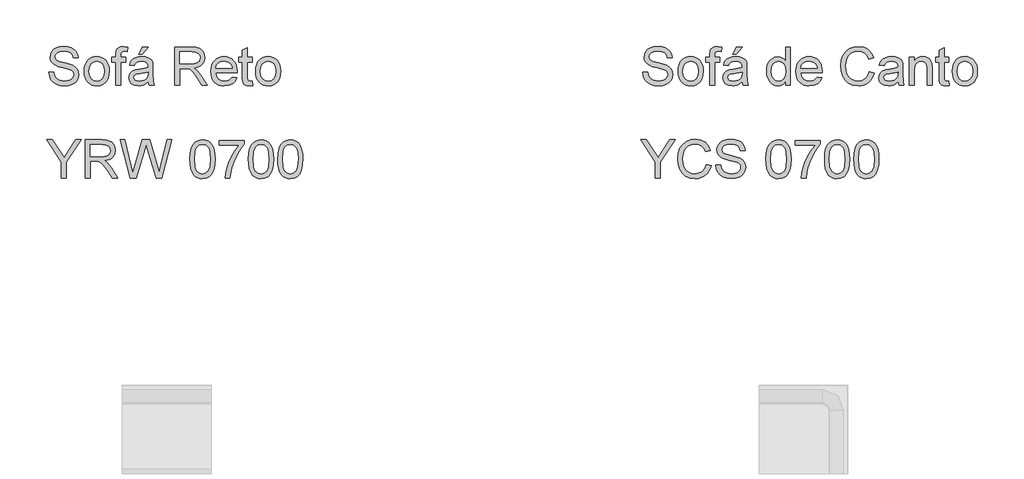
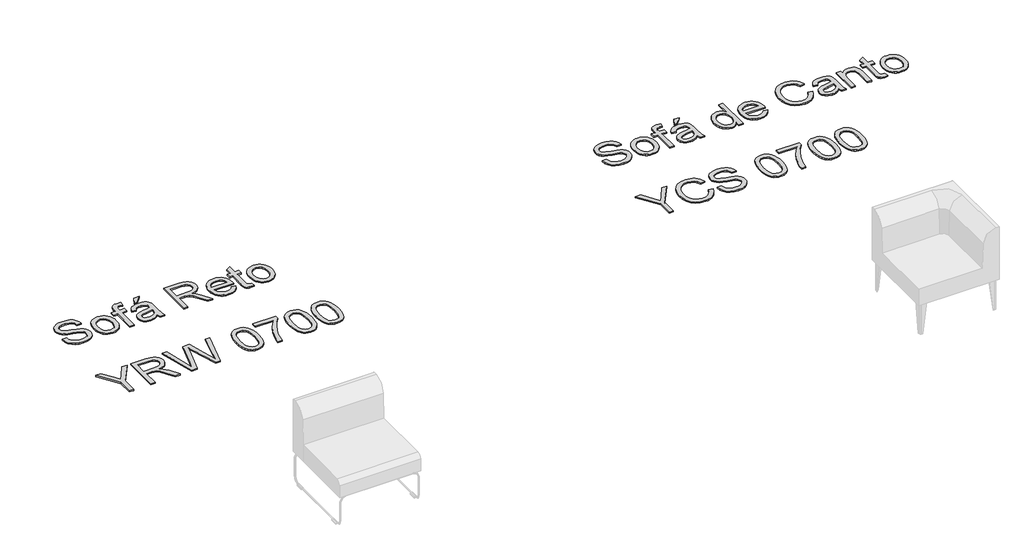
# One storey, part 16 of 26: 2 proxies.
"""IFC4 building model written with IfcOpenShell, lengths in millimetres."""

from ifc_helpers import new_model, si_unit, origin, origin_with_axes, place, context, project, spatial, polyline, outline, extrude, element, save

model = new_model("IFC4")

# Units and contexts
model_context = context("Model", 3, world=origin())
ifc_project = project(units=[si_unit("LENGTHUNIT", "METRE", prefix="MILLI")], contexts=[model_context])

# Site, building, storey
site = spatial("IfcSite", under=ifc_project)
building = spatial("IfcBuilding", under=site)
storey = spatial("IfcBuildingStorey", under=building, Name="Marelli - Linha YOUNG - Planta Baixa", Elevation=0.0)

# Proxies
placement = place(None, origin())
element("IfcBuildingElementProxy", 1, Name="300mm Arial", ObjectType="300mm Arial", at=placement, inside=storey, context=model_context, shape_type="SweptSolid", body=[
    extrude(outline(polyline([(9903.6286325, 188.9537033), (9941.2997488, 188.9537033), (9945.6223622, 168.0488089), (9953.4398546, 151.2457988), (9965.6351428, 137.9100765), (9983.0911434, 127.4070455), (10004.4282992, 120.5920316), (10028.2670525, 118.3203602), (10049.2547203, 120.0402086), (10067.6304259, 125.1997535), (10082.5204497, 133.3667338), (10093.0510718, 144.1088881), (10099.3142628, 156.442132), (10101.4019931, 169.3823812), (10099.8384946, 181.9915366), (10095.1479992, 192.8900407), (10085.6198555, 202.1882581), (10069.5434123, 209.9965534), (10014.6922068, 224.3807394), (9978.6857566, 233.8996861), (9955.6471466, 242.9587802), (9936.8943619, 255.6323149), (9923.6046248, 270.9913882), (9915.6859649, 288.7049063), (9913.0464116, 308.4417753), (9916.3113643, 330.505498), (9926.1062224, 351.0792986), (9942.1734685, 368.5169052), (9964.2555853, 381.1720458), (9990.761483, 388.8699765), (10020.1000722, 391.4359535), (10051.8850765, 388.7504149), (10079.6969554, 380.6937992), (10102.5424273, 367.4316533), (10119.4282109, 349.129524), (10130.1151828, 326.9278456), (10134.3642199, 301.9670522), (10096.6931036, 301.9670522), (10089.776922, 324.4446421), (10075.3559478, 340.6682381), (10052.8231756, 350.4906874), (10021.5716001, 353.7648371), (9989.5842607, 350.5274756), (9967.6400996, 340.8153909), (9954.9481708, 326.5231754), (9950.7175279, 309.5454213), (9953.7157661, 295.0692648), (9962.7104809, 283.4257997), (9983.9740602, 273.0147392), (10024.2203505, 262.3829495), (10065.7542278, 252.2845888), (10090.880568, 243.473815), (10112.3556795, 229.8069989), (10127.3376738, 212.9396094), (10136.1392505, 193.0555876), (10139.0731094, 170.3388744), (10135.6977921, 147.1163234), (10125.5718402, 125.2733299), (10109.1091209, 106.47456), (10086.7235015, 92.3846796), (10059.8037365, 83.5831028), (10029.7385804, 80.6492439), (9992.8308193, 83.8130291), (9962.4529635, 93.3043846), (9938.2555253, 109.1600986), (9919.8890167, 131.4169593), (9908.0983987, 158.5298623), (9903.6286325, 188.9537033)])), origin_with_axes(), (0.0, 0.0, 1.0), 10.0),
    extrude(outline(polyline([(10181.4531152, 196.0170376), (10183.4902618, 224.6796436), (10189.6017014, 249.378321), (10199.7874342, 270.11307), (10214.04746, 286.8838904), (10228.4040549, 297.6030521), (10244.2505718, 305.2595961), (10261.5870108, 309.8535225), (10280.4133719, 311.3848313), (10301.1964054, 309.5201294), (10319.9882776, 303.9260239), (10336.7889884, 294.6025145), (10351.598538, 281.5496015), (10363.6857608, 265.2087431), (10372.3194914, 246.0213978), (10377.4997297, 223.9875656), (10379.2264758, 199.1072464), (10376.1730553, 161.049854), (10367.0127936, 132.0791469), (10352.0124053, 110.3833062), (10331.4386047, 94.1505132), (10307.0020431, 84.0245612), (10280.4133719, 80.6492439), (10259.3268358, 82.507048), (10240.3602197, 88.0804602), (10223.5135236, 97.3694806), (10208.7867475, 110.3741091), (10196.8282834, 126.8736166), (10188.2865233, 146.6472739), (10183.1614673, 169.6950809), (10181.4531152, 196.0170376)]), holes=[polyline([(10219.1242315, 196.090614), (10223.4836332, 161.9971501), (10236.5618381, 137.7077414), (10256.2435249, 123.1672055), (10280.4133719, 118.3203602), (10304.4728544, 123.1947967), (10324.117753, 137.818106), (10337.1959579, 162.4294115), (10341.5553595, 197.2678364), (10337.1683668, 230.3680189), (10324.0073884, 254.3263339), (10304.3348987, 268.8668697), (10280.4133719, 273.713715), (10256.2435249, 268.8852638), (10236.5618381, 254.3999103), (10223.4836332, 230.1656838), (10219.1242315, 196.090614)])]), origin_with_axes(), (0.0, 0.0, 1.0), 10.0),
    extrude(outline(polyline([(10431.0242608, 85.3581335), (10431.0242608, 269.0048255), (10398.062034, 269.0048255), (10398.062034, 306.6759418), (10431.0242608, 306.6759418), (10431.0242608, 328.9695907), (10434.9973863, 360.3867131), (10442.5757554, 372.913095), (10454.2744029, 382.8275148), (10470.6451517, 389.2838438), (10492.2398248, 391.4359535), (10526.6000031, 387.3156751), (10521.0817732, 351.9990036), (10499.3767355, 353.7648371), (10485.0569288, 352.2013387), (10475.6483468, 347.5108432), (10470.4336195, 338.5529166), (10468.6953771, 324.1871247), (10468.6953771, 306.6759418), (10511.0753829, 306.6759418), (10511.0753829, 269.0048255), (10468.6953771, 269.0048255), (10468.6953771, 85.3581335), (10431.0242608, 85.3581335)])), origin_with_axes(), (0.0, 0.0, 1.0), 10.0),
    extrude(outline(polyline([(10685.3042958, 113.6114707), (10667.3056692, 98.178821), (10648.7736137, 88.0804602), (10629.285065, 82.507048), (10608.4169588, 80.6492439), (10576.9354571, 85.1190102), (10553.7129062, 98.5283089), (10539.3930995, 118.8905773), (10534.6198306, 144.2192527), (10536.4224524, 159.8358434), (10541.8303177, 174.0176943), (10550.172042, 186.1578001), (10560.7762405, 195.6491556), (10587.1533795, 208.0099907), (10619.7477243, 213.6753734), (10658.2649692, 219.6350617), (10685.0835666, 226.6248196), (10685.3042958, 235.0125291), (10682.7107278, 251.8247363), (10674.9300236, 262.8244079), (10657.5292052, 270.9913882), (10633.2857817, 273.713715), (10610.84498, 271.9018962), (10595.173207, 266.4664397), (10584.4862351, 256.4140642), (10576.9998365, 240.7514882), (10539.3287202, 245.4603778), (10545.8678226, 266.0617695), (10555.6258925, 282.2485773), (10569.5134379, 294.6278064), (10588.4409665, 303.8064622), (10611.5899411, 309.490239), (10638.1418241, 311.3848313), (10663.6084552, 309.7109682), (10683.7959797, 304.689379), (10699.0170972, 297.138601), (10709.5845075, 287.8771718), (10716.5926595, 276.4268447), (10721.1360022, 262.3093731), (10722.9754121, 229.3471464), (10722.9754121, 182.4789802), (10724.8883985, 117.0327733), (10732.3931912, 85.3581335), (10694.7220749, 85.3581335), (10685.3042958, 113.6114707)]), holes=[polyline([(10685.3042958, 188.9537033), (10624.5301902, 177.4022087), (10592.1197865, 171.2953675), (10577.4412949, 161.3625537), (10572.2909469, 146.8680031), (10575.0960471, 135.6659963), (10583.5113478, 126.4873405), (10597.3529078, 120.3621053), (10616.4367863, 118.3203602), (10636.6702961, 120.5736375), (10654.549361, 127.3334691), (10669.0439117, 137.2938741), (10679.1238783, 149.1488714), (10683.5936446, 161.3625537), (10685.0835666, 178.2851254), (10685.3042958, 188.9537033)])]), origin_with_axes(), (0.0, 0.0, 1.0), 10.0),
    extrude(outline(polyline([(10609.9620632, 330.2203895), (10638.2154005, 386.7270639), (10685.3042958, 386.7270639), (10638.2154005, 330.2203895), (10609.9620632, 330.2203895)])), origin_with_axes(), (0.0, 0.0, 1.0), 10.0),
    extrude(outline(polyline([(10897.2043251, 85.3581335), (10897.2043251, 386.7270639), (11027.0666694, 386.7270639), (11061.9694736, 384.6945159), (11087.3625284, 378.5968718), (11105.922175, 367.3396828), (11120.3247551, 349.8284998), (11129.5677903, 328.114265), (11132.648802, 304.2479206), (11127.5444393, 274.5598436), (11112.2313512, 249.9485381), (11100.6315721, 239.9191552), (11086.2496853, 231.9039262), (11049.1395891, 221.9159301), (11070.5503212, 205.8026987), (11101.0845268, 167.0279364), (11151.3372073, 85.3581335), (11107.5592499, 85.3581335), (11068.3430292, 147.8244962), (11040.0161156, 189.1744325), (11020.1136996, 208.7089665), (11002.1978465, 215.8826654), (10980.345656, 217.2070405), (10934.8754414, 217.2070405), (10934.8754414, 85.3581335), (10897.2043251, 85.3581335)]), holes=[polyline([(10934.8754414, 254.8781568), (11019.1939947, 254.8781568), (11043.409827, 256.2117291), (11062.1993999, 260.2124458), (11076.3444626, 267.1470214), (11086.6267644, 277.2821704), (11092.8899553, 289.5418378), (11094.9776857, 302.849969), (11090.9953631, 321.2256747), (11079.0483953, 336.032925), (11058.4929888, 345.800192), (11028.6853501, 349.0559476), (10934.8754414, 349.0559476), (10934.8754414, 254.8781568)])]), origin_with_axes(), (0.0, 0.0, 1.0), 10.0),
    extrude(outline(polyline([(11348.8162623, 151.282587), (11385.7516147, 146.5736975), (11372.4434835, 118.7434245), (11351.2074953, 97.9396977), (11322.5218967, 84.9718574), (11286.8649344, 80.6492439), (11263.4906321, 82.5139458), (11242.6639126, 88.1080514), (11224.384776, 97.4315607), (11208.6532222, 110.4844737), (11196.0026801, 126.903507), (11186.9665786, 146.3253771), (11181.5449177, 168.750084), (11179.7376974, 194.1776276), (11181.5633118, 220.4673947), (11187.040155, 243.6393619), (11196.168227, 263.6935292), (11208.9475278, 280.6298965), (11224.6376949, 294.0851805), (11242.4983657, 303.6960976), (11262.5295404, 309.4626479), (11284.7312188, 311.3848313), (11306.2178266, 309.4672464), (11325.6488937, 303.7144917), (11343.0244202, 294.1265672), (11358.344406, 280.7034729), (11370.8500946, 263.8038938), (11379.7827293, 243.7865147), (11385.1423101, 220.6513357), (11386.928837, 194.3983568), (11386.7081078, 184.2448138), (11217.4088137, 184.2448138), (11223.929522, 156.0466588), (11239.0770632, 135.3165084), (11260.9384507, 122.5693973), (11287.6006983, 118.3203602), (11307.6502671, 120.2885289), (11324.5360507, 126.1930349), (11338.2580491, 136.4017603), (11348.8162623, 151.282587)]), holes=[polyline([(11217.4088137, 221.9159301), (11349.2577207, 221.9159301), (11344.1625551, 241.818346), (11334.1745589, 256.0553792), (11312.2120038, 269.2991311), (11284.584066, 273.713715), (11259.1910113, 270.1912449), (11238.1941464, 259.6238346), (11223.5984282, 243.1519182), (11217.4088137, 221.9159301)])]), origin_with_axes(), (0.0, 0.0, 1.0), 10.0),
    extrude(outline(polyline([(11504.6510755, 116.7752559), (11509.359965, 84.2544875), (11481.1802042, 80.6492439), (11463.0988041, 82.2127424), (11449.615929, 86.9032378), (11440.0877853, 94.1321191), (11433.8705796, 103.3107748), (11430.4492771, 119.0745183), (11429.3088429, 146.0586627), (11429.3088429, 269.0048255), (11401.0555057, 269.0048255), (11401.0555057, 306.6759418), (11429.3088429, 306.6759418), (11429.3088429, 360.4602895), (11466.9799592, 382.6067856), (11466.9799592, 306.6759418), (11504.6510755, 306.6759418), (11504.6510755, 269.0048255), (11466.9799592, 269.0048255), (11466.9799592, 147.1623087), (11468.966522, 127.7381393), (11475.4044569, 120.858746), (11488.2435385, 118.3203602), (11504.6510755, 116.7752559)])), origin_with_axes(), (0.0, 0.0, 1.0), 10.0),
    extrude(outline(polyline([(11532.9044127, 196.0170376), (11534.9415593, 224.6796436), (11541.0529989, 249.378321), (11551.2387317, 270.11307), (11565.4987575, 286.8838904), (11579.8553524, 297.6030521), (11595.7018693, 305.2595961), (11613.0383083, 309.8535225), (11631.8646694, 311.3848313), (11652.6477029, 309.5201294), (11671.4395751, 303.9260239), (11688.2402859, 294.6025145), (11703.0498355, 281.5496015), (11715.1370583, 265.2087431), (11723.7707889, 246.0213978), (11728.9510272, 223.9875656), (11730.6777733, 199.1072464), (11727.6243528, 161.049854), (11718.4640911, 132.0791469), (11703.4637027, 110.3833062), (11682.8899022, 94.1505132), (11658.4533406, 84.0245612), (11631.8646694, 80.6492439), (11610.7781333, 82.507048), (11591.8115172, 88.0804602), (11574.9648211, 97.3694806), (11560.238045, 110.3741091), (11548.2795809, 126.8736166), (11539.7378208, 146.6472739), (11534.6127647, 169.6950809), (11532.9044127, 196.0170376)]), holes=[polyline([(11570.575529, 196.090614), (11574.9349307, 161.9971501), (11588.0131356, 137.7077414), (11607.6948223, 123.1672055), (11631.8646694, 118.3203602), (11655.9241519, 123.1947967), (11675.5690505, 137.818106), (11688.6472554, 162.4294115), (11693.006657, 197.2678364), (11688.6196642, 230.3680189), (11675.4586859, 254.3263339), (11655.7861962, 268.8668697), (11631.8646694, 273.713715), (11607.6948223, 268.8852638), (11588.0131356, 254.3999103), (11574.9349307, 230.1656838), (11570.575529, 196.090614)])]), origin_with_axes(), (0.0, 0.0, 1.0), 10.0),
    extrude(outline(polyline([(10002.5153128, -646.4907736), (10002.5153128, -518.8357213), (9884.7930743, -345.1218432), (9929.2332193, -345.1218432), (9992.0674641, -437.9016823), (10024.2203505, -485.2113069), (10056.4468133, -434.517168), (10113.4685225, -345.1218432), (10157.9086676, -345.1218432), (10040.1864291, -518.8357213), (10040.1864291, -646.4907736), (10002.5153128, -646.4907736)])), origin_with_axes(), (0.0, 0.0, 1.0), 10.0),
    extrude(outline(polyline([(10190.8708943, -646.4907736), (10190.8708943, -345.1218432), (10320.7332386, -345.1218432), (10355.6360429, -347.1543912), (10381.0290976, -353.2520352), (10399.5887443, -364.5092243), (10413.9913244, -382.0204073), (10423.2343595, -403.734642), (10426.3153712, -427.6009865), (10421.2110085, -457.2890635), (10405.8979205, -481.900369), (10394.2981413, -491.9297519), (10379.9162546, -499.9449808), (10342.8061583, -509.932977), (10364.2168904, -526.0462084), (10394.751096, -564.8209707), (10445.0037766, -646.4907736), (10401.2258192, -646.4907736), (10362.0095985, -584.0244108), (10333.6826848, -542.6744746), (10313.7802689, -523.1399406), (10295.8644157, -515.9662417), (10274.0122252, -514.6418665), (10228.5420106, -514.6418665), (10228.5420106, -646.4907736), (10190.8708943, -646.4907736)]), holes=[polyline([(10228.5420106, -476.9707502), (10312.8605639, -476.9707502), (10337.0763963, -475.637178), (10355.8659692, -471.6364613), (10370.0110319, -464.7018857), (10380.2933336, -454.5667367), (10386.5565246, -442.3070692), (10388.6442549, -428.9989381), (10384.6619323, -410.6232324), (10372.7149645, -395.8159821), (10352.1595581, -386.0487151), (10322.3519194, -382.7929595), (10228.5420106, -382.7929595), (10228.5420106, -476.9707502)])]), origin_with_axes(), (0.0, 0.0, 1.0), 10.0),
    extrude(outline(polyline([(10546.1713253, -646.4907736), (10463.9864875, -345.1218432), (10502.8348262, -345.1218432), (10550.5123328, -543.1895094), (10565.2276126, -604.331497), (10580.972962, -550.2528437), (10640.716998, -345.1218432), (10696.7086377, -345.1218432), (10740.1187131, -493.8197456), (10758.715148, -549.0020449), (10772.4187523, -604.331497), (10786.6925737, -544.9553429), (10834.8115387, -345.1218432), (10873.6598774, -345.1218432), (10791.4014632, -646.4907736), (10751.155173, -646.4907736), (10678.9031491, -413.9893527), (10668.8231825, -381.5421607), (10657.492417, -420.6112286), (10591.6415399, -646.4907736), (10546.1713253, -646.4907736)])), origin_with_axes(), (0.0, 0.0, 1.0), 10.0),
    extrude(outline(polyline([(11014.9265635, -498.2343295), (11017.6948755, -449.9958029), (11025.9998116, -411.5245433), (11039.7585982, -382.2319394), (11058.8884619, -361.5293801), (11083.5273586, -349.2237274), (11113.8132438, -345.1218432), (11137.0265977, -347.5498643), (11157.8119304, -354.8339278), (11175.1943547, -366.6889251), (11188.1989832, -382.8297477), (11198.0214325, -403.1184397), (11205.857319, -427.4170455), (11210.9892728, -458.2731478), (11212.6999241, -498.2343295), (11209.9592033, -546.1969447), (11201.7370407, -584.5762338), (11188.0610275, -613.8964288), (11168.9587549, -634.6817616), (11144.264676, -647.0701877), (11113.8132438, -651.1996631), (11093.0646993, -649.4062384), (11074.6705995, -644.0259642), (11058.6309445, -635.0588406), (11044.9457343, -622.5048675), (11031.8123471, -599.8111469), (11022.4313562, -571.5348171), (11016.8027617, -537.675878), (11014.9265635, -498.2343295)]), holes=[polyline([(11052.5976798, -498.1607531), (11057.0122638, -557.4173455), (11062.5304937, -577.6853442), (11070.2560156, -591.7131445), (11089.9744905, -608.0746963), (11113.8132438, -613.5285468), (11137.6519971, -608.0563022), (11157.370472, -591.6395681), (11165.0959939, -577.5887752), (11170.6142239, -557.325375), (11175.0288078, -498.1607531), (11170.7613767, -440.237733), (11165.4270877, -420.0364129), (11157.9590832, -405.6752196), (11138.2773965, -388.5135245), (11113.3717854, -382.7929595), (11089.7905495, -387.8329428), (11070.8446268, -402.9528928), (11062.8615875, -418.5878776), (11057.1594166, -439.6675159), (11052.5976798, -498.1607531)])]), origin_with_axes(), (0.0, 0.0, 1.0), 10.0),
    extrude(outline(polyline([(11245.6621509, -387.501849), (11245.6621509, -349.8307327), (11443.4355115, -349.8307327), (11443.4355115, -380.2913619), (11415.2465536, -415.9667184), (11387.3335072, -461.3357654), (11362.7130047, -512.2598306), (11344.4016784, -564.6002415), (11335.4253577, -603.7612799), (11330.4221626, -646.4907736), (11292.7510463, -646.4907736), (11296.8253394, -607.660829), (11307.7238435, -561.5100327), (11325.152253, -512.5909244), (11348.8162623, -465.4560438), (11376.4442002, -422.8461117), (11405.7643952, -387.501849), (11245.6621509, -387.501849)])), origin_with_axes(), (0.0, 0.0, 1.0), 10.0),
    extrude(outline(polyline([(11476.3977383, -498.2343295), (11479.1660503, -449.9958029), (11487.4709863, -411.5245433), (11501.2297729, -382.2319394), (11520.3596367, -361.5293801), (11544.9985333, -349.2237274), (11575.2844186, -345.1218432), (11598.4977725, -347.5498643), (11619.2831052, -354.8339278), (11636.6655295, -366.6889251), (11649.670158, -382.8297477), (11659.4926073, -403.1184397), (11667.3284938, -427.4170455), (11672.4604476, -458.2731478), (11674.1710989, -498.2343295), (11671.430378, -546.1969447), (11663.2082154, -584.5762338), (11649.5322022, -613.8964288), (11630.4299296, -634.6817616), (11605.7358507, -647.0701877), (11575.2844186, -651.1996631), (11554.535874, -649.4062384), (11536.1417743, -644.0259642), (11520.1021193, -635.0588406), (11506.4169091, -622.5048675), (11493.2835218, -599.8111469), (11483.902531, -571.5348171), (11478.2739364, -537.675878), (11476.3977383, -498.2343295)]), holes=[polyline([(11514.0688546, -498.1607531), (11518.4834385, -557.4173455), (11524.0016684, -577.6853442), (11531.7271903, -591.7131445), (11551.4456653, -608.0746963), (11575.2844186, -613.5285468), (11599.1231719, -608.0563022), (11618.8416468, -591.6395681), (11626.5671687, -577.5887752), (11632.0853986, -557.325375), (11636.4999826, -498.1607531), (11632.2325514, -440.237733), (11626.8982625, -420.0364129), (11619.430258, -405.6752196), (11599.7485712, -388.5135245), (11574.8429602, -382.7929595), (11551.2617243, -387.8329428), (11532.3158015, -402.9528928), (11524.3327622, -418.5878776), (11518.6305913, -439.6675159), (11514.0688546, -498.1607531)])]), origin_with_axes(), (0.0, 0.0, 1.0), 10.0),
    extrude(outline(polyline([(11707.1333256, -498.2343295), (11709.9016377, -449.9958029), (11718.2065737, -411.5245433), (11731.9653603, -382.2319394), (11751.0952241, -361.5293801), (11775.7341207, -349.2237274), (11806.0200059, -345.1218432), (11829.2333598, -347.5498643), (11850.0186926, -354.8339278), (11867.4011168, -366.6889251), (11880.4057454, -382.8297477), (11890.2281946, -403.1184397), (11898.0640811, -427.4170455), (11903.196035, -458.2731478), (11904.9066862, -498.2343295), (11902.1659654, -546.1969447), (11893.9438028, -584.5762338), (11880.2677896, -613.8964288), (11861.165517, -634.6817616), (11836.4714381, -647.0701877), (11806.0200059, -651.1996631), (11785.2714614, -649.4062384), (11766.8773617, -644.0259642), (11750.8377067, -635.0588406), (11737.1524964, -622.5048675), (11724.0191092, -599.8111469), (11714.6381183, -571.5348171), (11709.0095238, -537.675878), (11707.1333256, -498.2343295)]), holes=[polyline([(11744.8044419, -498.1607531), (11749.2190259, -557.4173455), (11754.7372558, -577.6853442), (11762.4627777, -591.7131445), (11782.1812527, -608.0746963), (11806.0200059, -613.5285468), (11829.8587592, -608.0563022), (11849.5772342, -591.6395681), (11857.3027561, -577.5887752), (11862.820986, -557.325375), (11867.2355699, -498.1607531), (11862.9681388, -440.237733), (11857.6338499, -420.0364129), (11850.1658454, -405.6752196), (11830.4841586, -388.5135245), (11805.5785475, -382.7929595), (11781.9973117, -387.8329428), (11763.0513889, -402.9528928), (11755.0683496, -418.5878776), (11749.3661787, -439.6675159), (11744.8044419, -498.1607531)])]), origin_with_axes(), (0.0, 0.0, 1.0), 10.0),
])
element("IfcBuildingElementProxy", 2, Name="300mm Arial", ObjectType="300mm Arial", at=placement, inside=storey, context=model_context, shape_type="SweptSolid", body=[
    extrude(outline(polyline([(14585.7785887, 188.9537033), (14623.449705, 188.9537033), (14627.7723184, 168.0488089), (14635.5898108, 151.2457988), (14647.7850989, 137.9100765), (14665.2410996, 127.4070455), (14686.5782553, 120.5920316), (14710.4170086, 118.3203602), (14731.4046764, 120.0402086), (14749.7803821, 125.1997535), (14764.6704059, 133.3667338), (14775.201028, 144.1088881), (14781.4642189, 156.442132), (14783.5519493, 169.3823812), (14781.9884508, 181.9915366), (14777.2979553, 192.8900407), (14767.7698117, 202.1882581), (14751.6933685, 209.9965534), (14696.842163, 224.3807394), (14660.8357127, 233.8996861), (14637.7971028, 242.9587802), (14619.0443181, 255.6323149), (14605.754581, 270.9913882), (14597.835921, 288.7049063), (14595.1963677, 308.4417753), (14598.4613204, 330.505498), (14608.2561786, 351.0792986), (14624.3234247, 368.5169052), (14646.4055415, 381.1720458), (14672.9114392, 388.8699765), (14702.2500283, 391.4359535), (14734.0350327, 388.7504149), (14761.8469115, 380.6937992), (14784.6923834, 367.4316533), (14801.578167, 349.129524), (14812.265139, 326.9278456), (14816.514176, 301.9670522), (14778.8430597, 301.9670522), (14771.9268782, 324.4446421), (14757.505904, 340.6682381), (14734.9731318, 350.4906874), (14703.7215563, 353.7648371), (14671.7342168, 350.5274756), (14649.7900558, 340.8153909), (14637.098127, 326.5231754), (14632.867484, 309.5454213), (14635.8657223, 295.0692648), (14644.8604371, 283.4257997), (14666.1240164, 273.0147392), (14706.3703067, 262.3829495), (14747.9041839, 252.2845888), (14773.0305242, 243.473815), (14794.5056357, 229.8069989), (14809.4876299, 212.9396094), (14818.2892067, 193.0555876), (14821.2230656, 170.3388744), (14817.8477483, 147.1163234), (14807.7217963, 125.2733299), (14791.2590771, 106.47456), (14768.8734577, 92.3846796), (14741.9536927, 83.5831028), (14711.8885366, 80.6492439), (14674.9807754, 83.8130291), (14644.6029197, 93.3043846), (14620.4054814, 109.1600986), (14602.0389728, 131.4169593), (14590.2483549, 158.5298623), (14585.7785887, 188.9537033)])), origin_with_axes(), (0.0, 0.0, 1.0), 10.0),
    extrude(outline(polyline([(14863.6030714, 196.0170376), (14865.640218, 224.6796436), (14871.7516576, 249.378321), (14881.9373903, 270.11307), (14896.1974162, 286.8838904), (14910.554011, 297.6030521), (14926.400528, 305.2595961), (14943.736967, 309.8535225), (14962.5633281, 311.3848313), (14983.3463616, 309.5201294), (15002.1382337, 303.9260239), (15018.9389446, 294.6025145), (15033.7484942, 281.5496015), (15045.835717, 265.2087431), (15054.4694476, 246.0213978), (15059.6496859, 223.9875656), (15061.376432, 199.1072464), (15058.3230115, 161.049854), (15049.1627498, 132.0791469), (15034.1623614, 110.3833062), (15013.5885608, 94.1505132), (14989.1519993, 84.0245612), (14962.5633281, 80.6492439), (14941.476792, 82.507048), (14922.5101759, 88.0804602), (14905.6634798, 97.3694806), (14890.9367037, 110.3741091), (14878.9782395, 126.8736166), (14870.4364795, 146.6472739), (14865.3114234, 169.6950809), (14863.6030714, 196.0170376)]), holes=[polyline([(14901.2741877, 196.090614), (14905.6335894, 161.9971501), (14918.7117943, 137.7077414), (14938.393481, 123.1672055), (14962.5633281, 118.3203602), (14986.6228106, 123.1947967), (15006.2677091, 137.818106), (15019.3459141, 162.4294115), (15023.7053157, 197.2678364), (15019.3183229, 230.3680189), (15006.1573445, 254.3263339), (14986.4848548, 268.8668697), (14962.5633281, 273.713715), (14938.393481, 268.8852638), (14918.7117943, 254.3999103), (14905.6335894, 230.1656838), (14901.2741877, 196.090614)])]), origin_with_axes(), (0.0, 0.0, 1.0), 10.0),
    extrude(outline(polyline([(15113.1742169, 85.3581335), (15113.1742169, 269.0048255), (15080.2119902, 269.0048255), (15080.2119902, 306.6759418), (15113.1742169, 306.6759418), (15113.1742169, 328.9695907), (15117.1473425, 360.3867131), (15124.7257116, 372.913095), (15136.424359, 382.8275148), (15152.7951078, 389.2838438), (15174.3897809, 391.4359535), (15208.7499593, 387.3156751), (15203.2317294, 351.9990036), (15181.5266916, 353.7648371), (15167.206885, 352.2013387), (15157.798303, 347.5108432), (15152.5835757, 338.5529166), (15150.8453332, 324.1871247), (15150.8453332, 306.6759418), (15193.2253391, 306.6759418), (15193.2253391, 269.0048255), (15150.8453332, 269.0048255), (15150.8453332, 85.3581335), (15113.1742169, 85.3581335)])), origin_with_axes(), (0.0, 0.0, 1.0), 10.0),
    extrude(outline(polyline([(15367.454252, 113.6114707), (15349.4556254, 98.178821), (15330.9235699, 88.0804602), (15311.4350212, 82.507048), (15290.566915, 80.6492439), (15259.0854133, 85.1190102), (15235.8628623, 98.5283089), (15221.5430557, 118.8905773), (15216.7697868, 144.2192527), (15218.5724086, 159.8358434), (15223.9802739, 174.0176943), (15232.3219981, 186.1578001), (15242.9261966, 195.6491556), (15269.3033357, 208.0099907), (15301.8976805, 213.6753734), (15340.4149254, 219.6350617), (15367.2335228, 226.6248196), (15367.454252, 235.0125291), (15364.8606839, 251.8247363), (15357.0799797, 262.8244079), (15339.6791614, 270.9913882), (15315.4357379, 273.713715), (15292.9949362, 271.9018962), (15277.3231632, 266.4664397), (15266.6361912, 256.4140642), (15259.1497926, 240.7514882), (15221.4786763, 245.4603778), (15228.0177788, 266.0617695), (15237.7758487, 282.2485773), (15251.663394, 294.6278064), (15270.5909227, 303.8064622), (15293.7398972, 309.490239), (15320.2917802, 311.3848313), (15345.7584113, 309.7109682), (15365.9459358, 304.689379), (15381.1670534, 297.138601), (15391.7344637, 287.8771718), (15398.7426157, 276.4268447), (15403.2859583, 262.3093731), (15405.1253683, 229.3471464), (15405.1253683, 182.4789802), (15407.0383547, 117.0327733), (15414.5431474, 85.3581335), (15376.8720311, 85.3581335), (15367.454252, 113.6114707)]), holes=[polyline([(15367.454252, 188.9537033), (15306.6801464, 177.4022087), (15274.2697426, 171.2953675), (15259.591251, 161.3625537), (15254.4409031, 146.8680031), (15257.2460033, 135.6659963), (15265.6613039, 126.4873405), (15279.502864, 120.3621053), (15298.5867425, 118.3203602), (15318.8202522, 120.5736375), (15336.6993172, 127.3334691), (15351.1938678, 137.2938741), (15361.2738345, 149.1488714), (15365.7436007, 161.3625537), (15367.2335228, 178.2851254), (15367.454252, 188.9537033)])]), origin_with_axes(), (0.0, 0.0, 1.0), 10.0),
    extrude(outline(polyline([(15292.1120194, 330.2203895), (15320.3653566, 386.7270639), (15367.454252, 386.7270639), (15320.3653566, 330.2203895), (15292.1120194, 330.2203895)])), origin_with_axes(), (0.0, 0.0, 1.0), 10.0),
    extrude(outline(polyline([(15711.2031883, 85.3581335), (15711.2031883, 120.8955342), (15699.9322037, 103.2877822), (15686.2791831, 90.7108165), (15670.2441267, 83.1646371), (15651.8270343, 80.6492439), (15627.4732462, 84.2912757), (15605.1795973, 95.2173709), (15586.3072509, 112.6641746), (15572.2173705, 135.8683314), (15563.4433849, 163.8917424), (15560.5187231, 195.7963084), (15563.2134587, 227.3054013), (15571.2976655, 255.7610736), (15584.7621466, 279.5446446), (15603.5977047, 297.0374335), (15626.3787973, 307.7979819), (15651.6798815, 311.3848313), (15670.1107694, 308.8188544), (15686.4079418, 301.1209236), (15700.2219107, 289.3211086), (15711.2031883, 274.449479), (15711.2031883, 386.7270639), (15748.8743046, 386.7270639), (15748.8743046, 85.3581335), (15711.2031883, 85.3581335)]), holes=[polyline([(15598.1898394, 195.9434612), (15602.4388764, 161.8683914), (15615.1859876, 137.634165), (15633.708846, 123.1488114), (15655.285125, 118.3203602), (15676.852207, 122.9280822), (15694.9060159, 136.7512482), (15707.1288952, 160.0473755), (15711.2031883, 193.0739817), (15707.0553188, 229.1815995), (15694.6117103, 254.2159693), (15676.0980489, 268.8392786), (15653.7400207, 273.713715), (15631.9430124, 269.0324166), (15614.0823416, 254.9885214), (15602.1629649, 230.8646596), (15598.1898394, 195.9434612)])]), origin_with_axes(), (0.0, 0.0, 1.0), 10.0),
    extrude(outline(polyline([(15960.3328754, 151.282587), (15997.2682277, 146.5736975), (15983.9600966, 118.7434245), (15962.7241084, 97.9396977), (15934.0385098, 84.9718574), (15898.3815474, 80.6492439), (15875.0072452, 82.5139458), (15854.1805257, 88.1080514), (15835.9013891, 97.4315607), (15820.1698353, 110.4844737), (15807.5192932, 126.903507), (15798.4831917, 146.3253771), (15793.0615307, 168.750084), (15791.2543104, 194.1776276), (15793.0799248, 220.4673947), (15798.5567681, 243.6393619), (15807.6848401, 263.6935292), (15820.4641409, 280.6298965), (15836.154308, 294.0851805), (15854.0149788, 303.6960976), (15874.0461535, 309.4626479), (15896.2478319, 311.3848313), (15917.7344397, 309.4672464), (15937.1655068, 303.7144917), (15954.5410333, 294.1265672), (15969.8610191, 280.7034729), (15982.3667077, 263.8038938), (15991.2993424, 243.7865147), (15996.6589232, 220.6513357), (15998.4454501, 194.3983568), (15998.2247209, 184.2448138), (15828.9254268, 184.2448138), (15835.4461351, 156.0466588), (15850.5936763, 135.3165084), (15872.4550638, 122.5693973), (15899.1173114, 118.3203602), (15919.1668802, 120.2885289), (15936.0526637, 126.1930349), (15949.7746622, 136.4017603), (15960.3328754, 151.282587)]), holes=[polyline([(15828.9254268, 221.9159301), (15960.7743338, 221.9159301), (15955.6791682, 241.818346), (15945.691172, 256.0553792), (15923.7286169, 269.2991311), (15896.1006791, 273.713715), (15870.7076244, 270.1912449), (15849.7107595, 259.6238346), (15835.1150413, 243.1519182), (15828.9254268, 221.9159301)])]), origin_with_axes(), (0.0, 0.0, 1.0), 10.0),
    extrude(outline(polyline([(16370.4477237, 192.4853705), (16408.11884, 182.7732858), (16400.664631, 159.3461005), (16390.7364157, 138.8757667), (16378.3341939, 121.3622845), (16363.4579657, 106.8056538), (16346.4434235, 95.3622245), (16327.6262594, 87.1883464), (16307.0064736, 82.2840195), (16284.584066, 80.6492439), (16240.888882, 85.5972568), (16206.1884128, 100.4412953), (16179.5905446, 124.6663247), (16160.2031634, 157.7573101), (16148.3665602, 196.6608311), (16144.4210258, 238.3234671), (16148.881595, 282.2669714), (16162.2633026, 320.2139992), (16183.8671728, 350.9597369), (16212.9942297, 373.2993711), (16247.5383491, 386.9018079), (16285.3934064, 391.4359535), (16326.6973574, 385.5682356), (16344.6660936, 378.2335884), (16360.8460036, 367.9650822), (16374.9703729, 355.03403), (16386.7724872, 339.7117449), (16403.4099504, 301.8934758), (16365.7388341, 292.9171551), (16352.6790233, 320.3887431), (16334.8367465, 339.2334983), (16311.9912746, 350.1320024), (16283.9218784, 353.7648371), (16251.5666569, 349.7365293), (16224.9871828, 337.6516058), (16204.8180524, 318.7792594), (16191.6938622, 294.3886831), (16184.4925721, 266.8159276), (16182.0921421, 238.3970435), (16184.9340305, 203.5954067), (16193.4596958, 173.5026595), (16207.9910346, 149.2684331), (16228.8499437, 132.0423587), (16253.8567223, 121.7508598), (16280.8316696, 118.3203602), (16312.2763832, 122.9924616), (16338.4787783, 137.0087656), (16358.2616326, 160.2221195), (16370.4477237, 192.4853705)])), origin_with_axes(), (0.0, 0.0, 1.0), 10.0),
    extrude(outline(polyline([(16596.4744215, 113.6114707), (16578.4757949, 98.178821), (16559.9437394, 88.0804602), (16540.4551907, 82.507048), (16519.5870845, 80.6492439), (16488.1055828, 85.1190102), (16464.8830318, 98.5283089), (16450.5632252, 118.8905773), (16445.7899563, 144.2192527), (16447.592578, 159.8358434), (16453.0004434, 174.0176943), (16461.3421676, 186.1578001), (16471.9463661, 195.6491556), (16498.3235052, 208.0099907), (16530.91785, 213.6753734), (16569.4350948, 219.6350617), (16596.2536923, 226.6248196), (16596.4744215, 235.0125291), (16593.8808534, 251.8247363), (16586.1001492, 262.8244079), (16568.6993309, 270.9913882), (16544.4559074, 273.713715), (16522.0151057, 271.9018962), (16506.3433327, 266.4664397), (16495.6563607, 256.4140642), (16488.1699621, 240.7514882), (16450.4988458, 245.4603778), (16457.0379483, 266.0617695), (16466.7960182, 282.2485773), (16480.6835635, 294.6278064), (16499.6110922, 303.8064622), (16522.7600667, 309.490239), (16549.3119497, 311.3848313), (16574.7785808, 309.7109682), (16594.9661053, 304.689379), (16610.1872229, 297.138601), (16620.7546332, 287.8771718), (16627.7627852, 276.4268447), (16632.3061278, 262.3093731), (16634.1455378, 229.3471464), (16634.1455378, 182.4789802), (16636.0585242, 117.0327733), (16643.5633169, 85.3581335), (16605.8922006, 85.3581335), (16596.4744215, 113.6114707)]), holes=[polyline([(16596.4744215, 188.9537033), (16535.7003159, 177.4022087), (16503.2899121, 171.2953675), (16488.6114205, 161.3625537), (16483.4610726, 146.8680031), (16486.2661728, 135.6659963), (16494.6814734, 126.4873405), (16508.5230335, 120.3621053), (16527.606912, 118.3203602), (16547.8404217, 120.5736375), (16565.7194867, 127.3334691), (16580.2140373, 137.2938741), (16590.294004, 149.1488714), (16594.7637702, 161.3625537), (16596.2536923, 178.2851254), (16596.4744215, 188.9537033)])]), origin_with_axes(), (0.0, 0.0, 1.0), 10.0),
    extrude(outline(polyline([(16685.9433227, 85.3581335), (16685.9433227, 306.6759418), (16723.614439, 306.6759418), (16723.614439, 275.7738542), (16736.701841, 291.3536567), (16752.4195992, 302.482087), (16770.7677138, 309.1591452), (16791.7461845, 311.3848313), (16810.3150282, 309.5914066), (16827.3203735, 304.2111324), (16841.5022244, 295.9153934), (16851.6005851, 285.3755742), (16862.8945624, 257.67406), (16864.8811252, 221.2537425), (16864.8811252, 85.3581335), (16827.2100089, 85.3581335), (16827.2100089, 216.176971), (16822.8690013, 249.5070797), (16816.8633278, 259.4306965), (16807.5283221, 267.1286273), (16795.5629602, 272.0674431), (16781.6662179, 273.713715), (16759.6024952, 270.0165009), (16740.7945282, 258.9248588), (16733.2782392, 249.8703632), (16727.9094613, 237.4957326), (16723.614439, 202.7860663), (16723.614439, 85.3581335), (16685.9433227, 85.3581335)])), origin_with_axes(), (0.0, 0.0, 1.0), 10.0),
    extrude(outline(polyline([(16996.7300322, 116.7752559), (17001.4389218, 84.2544875), (16973.259161, 80.6492439), (16955.1777609, 82.2127424), (16941.6948858, 86.9032378), (16932.1667421, 94.1321191), (16925.9495364, 103.3107748), (16922.5282338, 119.0745183), (16921.3877996, 146.0586627), (16921.3877996, 269.0048255), (16893.1344624, 269.0048255), (16893.1344624, 306.6759418), (16921.3877996, 306.6759418), (16921.3877996, 360.4602895), (16959.0589159, 382.6067856), (16959.0589159, 306.6759418), (16996.7300322, 306.6759418), (16996.7300322, 269.0048255), (16959.0589159, 269.0048255), (16959.0589159, 147.1623087), (16961.0454787, 127.7381393), (16967.4834136, 120.858746), (16980.3224953, 118.3203602), (16996.7300322, 116.7752559)])), origin_with_axes(), (0.0, 0.0, 1.0), 10.0),
    extrude(outline(polyline([(17024.9833695, 196.0170376), (17027.020516, 224.6796436), (17033.1319557, 249.378321), (17043.3176884, 270.11307), (17057.5777142, 286.8838904), (17071.9343091, 297.6030521), (17087.780826, 305.2595961), (17105.1172651, 309.8535225), (17123.9436262, 311.3848313), (17144.7266596, 309.5201294), (17163.5185318, 303.9260239), (17180.3192427, 294.6025145), (17195.1287922, 281.5496015), (17207.216015, 265.2087431), (17215.8497456, 246.0213978), (17221.029984, 223.9875656), (17222.7567301, 199.1072464), (17219.7033095, 161.049854), (17210.5430478, 132.0791469), (17195.5426595, 110.3833062), (17174.9688589, 94.1505132), (17150.5322974, 84.0245612), (17123.9436262, 80.6492439), (17102.8570901, 82.507048), (17083.890474, 88.0804602), (17067.0437778, 97.3694806), (17052.3170017, 110.3741091), (17040.3585376, 126.8736166), (17031.8167775, 146.6472739), (17026.6917215, 169.6950809), (17024.9833695, 196.0170376)]), holes=[polyline([(17062.6544858, 196.090614), (17067.0138874, 161.9971501), (17080.0920924, 137.7077414), (17099.7737791, 123.1672055), (17123.9436262, 118.3203602), (17148.0031087, 123.1947967), (17167.6480072, 137.818106), (17180.7262121, 162.4294115), (17185.0856138, 197.2678364), (17180.698621, 230.3680189), (17167.5376426, 254.3263339), (17147.8651529, 268.8668697), (17123.9436262, 273.713715), (17099.7737791, 268.8852638), (17080.0920924, 254.3999103), (17067.0138874, 230.1656838), (17062.6544858, 196.090614)])]), origin_with_axes(), (0.0, 0.0, 1.0), 10.0),
    extrude(outline(polyline([(14684.665269, -646.4907736), (14684.665269, -518.8357213), (14566.9430305, -345.1218432), (14611.3831755, -345.1218432), (14674.2174203, -437.9016823), (14706.3703067, -485.2113069), (14738.5967694, -434.517168), (14795.6184787, -345.1218432), (14840.0586237, -345.1218432), (14722.3363853, -518.8357213), (14722.3363853, -646.4907736), (14684.665269, -646.4907736)])), origin_with_axes(), (0.0, 0.0, 1.0), 10.0),
    extrude(outline(polyline([(15084.9208797, -539.3635366), (15122.591996, -549.0756213), (15115.1377871, -572.5028066), (15105.2095717, -592.9731404), (15092.80735, -610.4866226), (15077.9311218, -625.0432533), (15060.9165795, -636.4866826), (15042.0994155, -644.6605607), (15021.4796296, -649.5648875), (14999.057222, -651.1996631), (14955.3620381, -646.2516503), (14920.6615689, -631.4076118), (14894.0637006, -607.1825824), (14874.6763195, -574.091597), (14862.8397163, -535.188076), (14858.8941819, -493.52544), (14863.3547511, -449.5819357), (14876.7364586, -411.6349079), (14898.3403288, -380.8891701), (14927.4673858, -358.549536), (14962.0115051, -344.9470992), (14999.8665624, -340.4129536), (15041.1705134, -346.2806714), (15059.1392496, -353.6153187), (15075.3191596, -363.8838249), (15089.443529, -376.814877), (15101.2456432, -392.1371621), (15117.8831065, -429.9554312), (15080.2119902, -438.9317519), (15067.1521793, -411.4601639), (15049.3099026, -392.6154087), (15026.4644307, -381.7169046), (14998.3950344, -378.0840699), (14966.039813, -382.1123778), (14939.4603388, -394.1973013), (14919.2912084, -413.0696477), (14906.1670183, -437.4602239), (14898.9657282, -465.0329795), (14896.5652982, -493.4518636), (14899.4071866, -528.2535004), (14907.9328518, -558.3462476), (14922.4641906, -582.580474), (14943.3230998, -599.8065484), (14968.3298784, -610.0980472), (14995.3048257, -613.5285468), (15026.7495392, -608.8564455), (15052.9519343, -594.8401415), (15072.7347886, -571.6267876), (15084.9208797, -539.3635366)])), origin_with_axes(), (0.0, 0.0, 1.0), 10.0),
    extrude(outline(polyline([(15160.2631123, -542.8952038), (15197.9342286, -542.8952038), (15202.2568421, -563.8000981), (15210.0743345, -580.6031083), (15222.2696226, -593.9388306), (15239.7256233, -604.4418616), (15261.062779, -611.2568755), (15284.9015323, -613.5285468), (15305.8892001, -611.8086985), (15324.2649058, -606.6491535), (15339.1549295, -598.4821732), (15349.6855516, -587.740019), (15355.9487426, -575.4067751), (15358.0364729, -562.4665259), (15356.4729744, -549.8573705), (15351.782479, -538.9588664), (15342.2543353, -529.660649), (15326.1778921, -521.8523536), (15271.3266867, -507.4681676), (15235.3202364, -497.949221), (15212.2816264, -488.8901269), (15193.5288417, -476.2165921), (15180.2391047, -460.8575188), (15172.3204447, -443.1440008), (15169.6808914, -423.4071317), (15172.9458441, -401.3434091), (15182.7407022, -380.7696085), (15198.8079484, -363.3320019), (15220.8900651, -350.6768613), (15247.3959629, -342.9789305), (15276.734552, -340.4129536), (15308.5195564, -343.0984922), (15336.3314352, -351.1551079), (15359.1769071, -364.4172538), (15376.0626907, -382.7193831), (15386.7496627, -404.9210615), (15390.9986997, -429.8818548), (15353.3275834, -429.8818548), (15346.4114019, -407.4042649), (15331.9904277, -391.180669), (15309.4576555, -381.3582197), (15278.20608, -378.0840699), (15246.2187405, -381.3214315), (15224.2745795, -391.0335162), (15211.5826506, -405.3257317), (15207.3520077, -422.3034857), (15210.350246, -436.7796423), (15219.3449607, -448.4231074), (15240.6085401, -458.8341679), (15280.8548303, -469.4659575), (15322.3887076, -479.5643183), (15347.5150479, -488.3750921), (15368.9901593, -502.0419082), (15383.9721536, -518.9092977), (15392.7737303, -538.7933195), (15395.7075892, -561.5100327), (15392.3322719, -584.7325837), (15382.20632, -606.5755771), (15365.7436007, -625.3743471), (15343.3579813, -639.4642275), (15316.4382163, -648.2658042), (15286.3730603, -651.1996631), (15249.4652991, -648.035878), (15219.0874433, -638.5445225), (15194.8900051, -622.6888085), (15176.5234965, -600.4319478), (15164.7328786, -573.3190448), (15160.2631123, -542.8952038)])), origin_with_axes(), (0.0, 0.0, 1.0), 10.0),
    extrude(outline(polyline([(15555.8098335, -498.2343295), (15558.5781455, -449.9958029), (15566.8830816, -411.5245433), (15580.6418682, -382.2319394), (15599.771732, -361.5293801), (15624.4106286, -349.2237274), (15654.6965138, -345.1218432), (15677.9098677, -347.5498643), (15698.6952005, -354.8339278), (15716.0776247, -366.6889251), (15729.0822533, -382.8297477), (15738.9047025, -403.1184397), (15746.740589, -427.4170455), (15751.8725429, -458.2731478), (15753.5831941, -498.2343295), (15750.8424733, -546.1969447), (15742.6203107, -584.5762338), (15728.9442975, -613.8964288), (15709.8420249, -634.6817616), (15685.147946, -647.0701877), (15654.6965138, -651.1996631), (15633.9479693, -649.4062384), (15615.5538696, -644.0259642), (15599.5142146, -635.0588406), (15585.8290043, -622.5048675), (15572.6956171, -599.8111469), (15563.3146262, -571.5348171), (15557.6860317, -537.675878), (15555.8098335, -498.2343295)]), holes=[polyline([(15593.4809498, -498.1607531), (15597.8955338, -557.4173455), (15603.4137637, -577.6853442), (15611.1392856, -591.7131445), (15630.8577606, -608.0746963), (15654.6965138, -613.5285468), (15678.5352671, -608.0563022), (15698.2537421, -591.6395681), (15705.979264, -577.5887752), (15711.4974939, -557.325375), (15715.9120778, -498.1607531), (15711.6446467, -440.237733), (15706.3103578, -420.0364129), (15698.8423533, -405.6752196), (15679.1606665, -388.5135245), (15654.2550554, -382.7929595), (15630.6738196, -387.8329428), (15611.7278968, -402.9528928), (15603.7448575, -418.5878776), (15598.0426866, -439.6675159), (15593.4809498, -498.1607531)])]), origin_with_axes(), (0.0, 0.0, 1.0), 10.0),
    extrude(outline(polyline([(15786.5454209, -387.501849), (15786.5454209, -349.8307327), (15984.3187815, -349.8307327), (15984.3187815, -380.2913619), (15956.1298236, -415.9667184), (15928.2167773, -461.3357654), (15903.5962747, -512.2598306), (15885.2849484, -564.6002415), (15876.3086277, -603.7612799), (15871.3054326, -646.4907736), (15833.6343163, -646.4907736), (15837.7086094, -607.660829), (15848.6071135, -561.5100327), (15866.035523, -512.5909244), (15889.6995324, -465.4560438), (15917.3274702, -422.8461117), (15946.6476652, -387.501849), (15786.5454209, -387.501849)])), origin_with_axes(), (0.0, 0.0, 1.0), 10.0),
    extrude(outline(polyline([(16017.2810083, -498.2343295), (16020.0493203, -449.9958029), (16028.3542563, -411.5245433), (16042.113043, -382.2319394), (16061.2429067, -361.5293801), (16085.8818033, -349.2237274), (16116.1676886, -345.1218432), (16139.3810425, -347.5498643), (16160.1663752, -354.8339278), (16177.5487995, -366.6889251), (16190.553428, -382.8297477), (16200.3758773, -403.1184397), (16208.2117638, -427.4170455), (16213.3437176, -458.2731478), (16215.0543689, -498.2343295), (16212.313648, -546.1969447), (16204.0914854, -584.5762338), (16190.4154723, -613.8964288), (16171.3131997, -634.6817616), (16146.6191207, -647.0701877), (16116.1676886, -651.1996631), (16095.4191441, -649.4062384), (16077.0250443, -644.0259642), (16060.9853893, -635.0588406), (16047.3001791, -622.5048675), (16034.1667919, -599.8111469), (16024.785801, -571.5348171), (16019.1572065, -537.675878), (16017.2810083, -498.2343295)]), holes=[polyline([(16054.9521246, -498.1607531), (16059.3667085, -557.4173455), (16064.8849385, -577.6853442), (16072.6104604, -591.7131445), (16092.3289353, -608.0746963), (16116.1676886, -613.5285468), (16140.0064419, -608.0563022), (16159.7249168, -591.6395681), (16167.4504387, -577.5887752), (16172.9686686, -557.325375), (16177.3832526, -498.1607531), (16173.1158214, -440.237733), (16167.7815325, -420.0364129), (16160.313528, -405.6752196), (16140.6318413, -388.5135245), (16115.7262302, -382.7929595), (16092.1449943, -387.8329428), (16073.1990716, -402.9528928), (16065.2160323, -418.5878776), (16059.5138613, -439.6675159), (16054.9521246, -498.1607531)])]), origin_with_axes(), (0.0, 0.0, 1.0), 10.0),
    extrude(outline(polyline([(16248.0165957, -498.2343295), (16250.7849077, -449.9958029), (16259.0898437, -411.5245433), (16272.8486303, -382.2319394), (16291.9784941, -361.5293801), (16316.6173907, -349.2237274), (16346.903276, -345.1218432), (16370.1166299, -347.5498643), (16390.9019626, -354.8339278), (16408.2843869, -366.6889251), (16421.2890154, -382.8297477), (16431.1114647, -403.1184397), (16438.9473512, -427.4170455), (16444.079305, -458.2731478), (16445.7899563, -498.2343295), (16443.0492354, -546.1969447), (16434.8270728, -584.5762338), (16421.1510596, -613.8964288), (16402.048787, -634.6817616), (16377.3547081, -647.0701877), (16346.903276, -651.1996631), (16326.1547314, -649.4062384), (16307.7606317, -644.0259642), (16291.7209767, -635.0588406), (16278.0357665, -622.5048675), (16264.9023792, -599.8111469), (16255.5213884, -571.5348171), (16249.8927938, -537.675878), (16248.0165957, -498.2343295)]), holes=[polyline([(16285.687712, -498.1607531), (16290.1022959, -557.4173455), (16295.6205258, -577.6853442), (16303.3460477, -591.7131445), (16323.0645227, -608.0746963), (16346.903276, -613.5285468), (16370.7420293, -608.0563022), (16390.4605042, -591.6395681), (16398.1860261, -577.5887752), (16403.704256, -557.325375), (16408.11884, -498.1607531), (16403.8514088, -440.237733), (16398.5171199, -420.0364129), (16391.0491154, -405.6752196), (16371.3674286, -388.5135245), (16346.4618176, -382.7929595), (16322.8805817, -387.8329428), (16303.9346589, -402.9528928), (16295.9516196, -418.5878776), (16290.2494487, -439.6675159), (16285.687712, -498.1607531)])]), origin_with_axes(), (0.0, 0.0, 1.0), 10.0),
])

save(model, "model.ifc")
